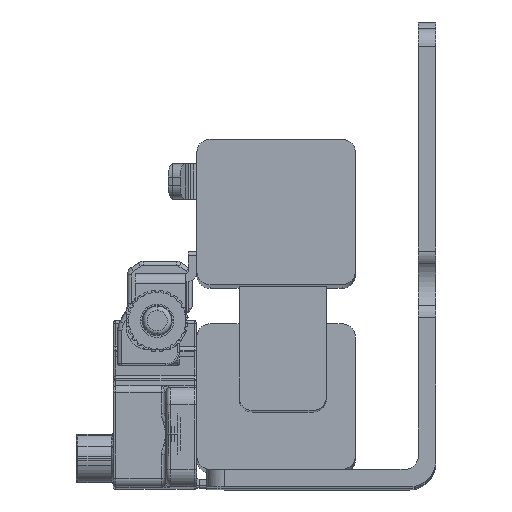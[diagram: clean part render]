
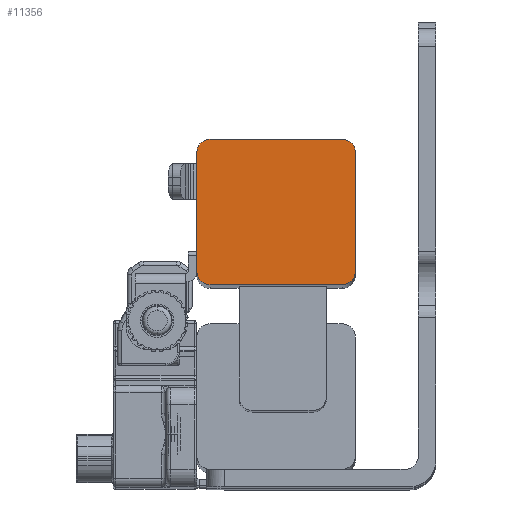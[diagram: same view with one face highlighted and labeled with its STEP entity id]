
A CAD part, top view. The second image highlights one B-rep face of the part: STEP entity #11356.
In plain terms, the highlighted planar face has unit normal (0, 0, 1).
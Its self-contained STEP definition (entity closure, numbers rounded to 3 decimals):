
#275 = DIRECTION ( 'NONE',  ( 0., 0., 1. ) ) ;
#705 = DIRECTION ( 'NONE',  ( 0., 1., 0. ) ) ;
#5033 = EDGE_LOOP ( 'NONE', ( #29035, #13116, #55589, #46169, #82037, #26833, #17380, #5776 ) ) ;
#5296 = PLANE ( 'NONE',  #53343 ) ;
#5776 = ORIENTED_EDGE ( 'NONE', *, *, #82087, .T. ) ;
#8196 = VECTOR ( 'NONE', #22050, 1000. ) ;
#8988 = DIRECTION ( 'NONE',  ( 0., 0., 1. ) ) ;
#10163 = DIRECTION ( 'NONE',  ( 1., 0., 0. ) ) ;
#10247 = CARTESIAN_POINT ( 'NONE',  ( 9., 6.75, 243.1 ) ) ;
#11356 = ADVANCED_FACE ( 'NONE', ( #18751 ), #5296, .T. ) ;
#13116 = ORIENTED_EDGE ( 'NONE', *, *, #29917, .T. ) ;
#14019 = CARTESIAN_POINT ( 'NONE',  ( 7.5, 8.25, 243.1 ) ) ;
#14459 = DIRECTION ( 'NONE',  ( -1., 0., 0. ) ) ;
#15502 = CARTESIAN_POINT ( 'NONE',  ( -9., -6.75, 243.1 ) ) ;
#17380 = ORIENTED_EDGE ( 'NONE', *, *, #33714, .T. ) ;
#18751 = FACE_OUTER_BOUND ( 'NONE', #5033, .T. ) ;
#19925 = EDGE_CURVE ( 'NONE', #23236, #37757, #27474, .T. ) ;
#19942 = CARTESIAN_POINT ( 'NONE',  ( -9., 8.25, 243.1 ) ) ;
#20366 = CIRCLE ( 'NONE', #82053, 1.5 ) ;
#21584 = CARTESIAN_POINT ( 'NONE',  ( 7.5, -6.75, 243.1 ) ) ;
#22050 = DIRECTION ( 'NONE',  ( 1., 0., 0. ) ) ;
#23236 = VERTEX_POINT ( 'NONE', #26864 ) ;
#24462 = AXIS2_PLACEMENT_3D ( 'NONE', #71854, #33183, #53794 ) ;
#24596 = CARTESIAN_POINT ( 'NONE',  ( -7.51, 6.76, 243.1 ) ) ;
#25732 = EDGE_CURVE ( 'NONE', #37757, #64755, #20366, .T. ) ;
#26300 = DIRECTION ( 'NONE',  ( -1., 0., 0. ) ) ;
#26833 = ORIENTED_EDGE ( 'NONE', *, *, #42152, .T. ) ;
#26864 = CARTESIAN_POINT ( 'NONE',  ( -7.5, -8.25, 243.1 ) ) ;
#27474 = LINE ( 'NONE', #66142, #8196 ) ;
#27952 = CARTESIAN_POINT ( 'NONE',  ( -9., 6.75, 243.1 ) ) ;
#29035 = ORIENTED_EDGE ( 'NONE', *, *, #81737, .T. ) ;
#29917 = EDGE_CURVE ( 'NONE', #63532, #23236, #45950, .T. ) ;
#32832 = LINE ( 'NONE', #39146, #50630 ) ;
#33183 = DIRECTION ( 'NONE',  ( 0., 0., 1. ) ) ;
#33714 = EDGE_CURVE ( 'NONE', #70748, #76131, #82640, .T. ) ;
#37757 = VERTEX_POINT ( 'NONE', #54858 ) ;
#38616 = VERTEX_POINT ( 'NONE', #10247 ) ;
#38996 = CARTESIAN_POINT ( 'NONE',  ( -7.5, 8.25, 243.1 ) ) ;
#39146 = CARTESIAN_POINT ( 'NONE',  ( -9., 8.25, 243.1 ) ) ;
#39330 = CARTESIAN_POINT ( 'NONE',  ( 7.5, 6.75, 243.1 ) ) ;
#41706 = DIRECTION ( 'NONE',  ( -1., 0., 0. ) ) ;
#42152 = EDGE_CURVE ( 'NONE', #38616, #70748, #42579, .T. ) ;
#42579 = CIRCLE ( 'NONE', #81511, 1.5 ) ;
#43482 = VECTOR ( 'NONE', #14459, 1000. ) ;
#44853 = CARTESIAN_POINT ( 'NONE',  ( 9., 6.75, 243.1 ) ) ;
#45950 = CIRCLE ( 'NONE', #24462, 1.5 ) ;
#46169 = ORIENTED_EDGE ( 'NONE', *, *, #25732, .T. ) ;
#50630 = VECTOR ( 'NONE', #64784, 1000. ) ;
#53343 = AXIS2_PLACEMENT_3D ( 'NONE', #24596, #64501, #76700 ) ;
#53794 = DIRECTION ( 'NONE',  ( -1., 0., 0. ) ) ;
#54858 = CARTESIAN_POINT ( 'NONE',  ( 7.5, -8.25, 243.1 ) ) ;
#55589 = ORIENTED_EDGE ( 'NONE', *, *, #19925, .T. ) ;
#57410 = AXIS2_PLACEMENT_3D ( 'NONE', #73619, #62601, #10163 ) ;
#62601 = DIRECTION ( 'NONE',  ( 0., 0., 1. ) ) ;
#63458 = CARTESIAN_POINT ( 'NONE',  ( 9., -6.75, 243.1 ) ) ;
#63532 = VERTEX_POINT ( 'NONE', #15502 ) ;
#64501 = DIRECTION ( 'NONE',  ( 0., 0., 1. ) ) ;
#64755 = VERTEX_POINT ( 'NONE', #63458 ) ;
#64784 = DIRECTION ( 'NONE',  ( 0., -1., 0. ) ) ;
#66142 = CARTESIAN_POINT ( 'NONE',  ( -7.5, -8.25, 243.1 ) ) ;
#66728 = VERTEX_POINT ( 'NONE', #27952 ) ;
#69313 = VECTOR ( 'NONE', #705, 1000. ) ;
#70748 = VERTEX_POINT ( 'NONE', #14019 ) ;
#71854 = CARTESIAN_POINT ( 'NONE',  ( -7.5, -6.75, 243.1 ) ) ;
#72162 = CIRCLE ( 'NONE', #57410, 1.5 ) ;
#73619 = CARTESIAN_POINT ( 'NONE',  ( -7.5, 6.75, 243.1 ) ) ;
#76131 = VERTEX_POINT ( 'NONE', #38996 ) ;
#76700 = DIRECTION ( 'NONE',  ( 1., 0., 0. ) ) ;
#77615 = LINE ( 'NONE', #44853, #69313 ) ;
#80848 = EDGE_CURVE ( 'NONE', #64755, #38616, #77615, .T. ) ;
#81511 = AXIS2_PLACEMENT_3D ( 'NONE', #39330, #275, #26300 ) ;
#81737 = EDGE_CURVE ( 'NONE', #66728, #63532, #32832, .T. ) ;
#82037 = ORIENTED_EDGE ( 'NONE', *, *, #80848, .T. ) ;
#82053 = AXIS2_PLACEMENT_3D ( 'NONE', #21584, #8988, #41706 ) ;
#82087 = EDGE_CURVE ( 'NONE', #76131, #66728, #72162, .T. ) ;
#82640 = LINE ( 'NONE', #19942, #43482 ) ;
